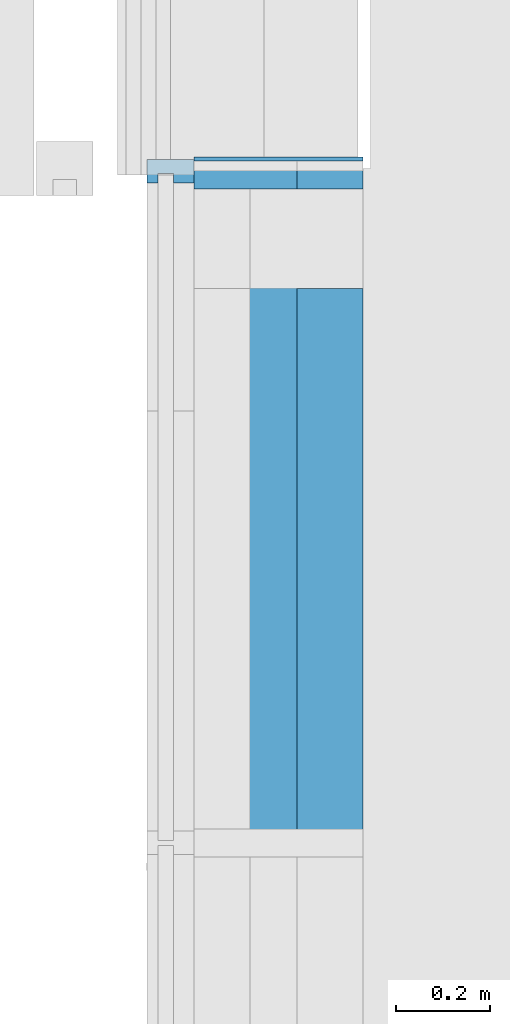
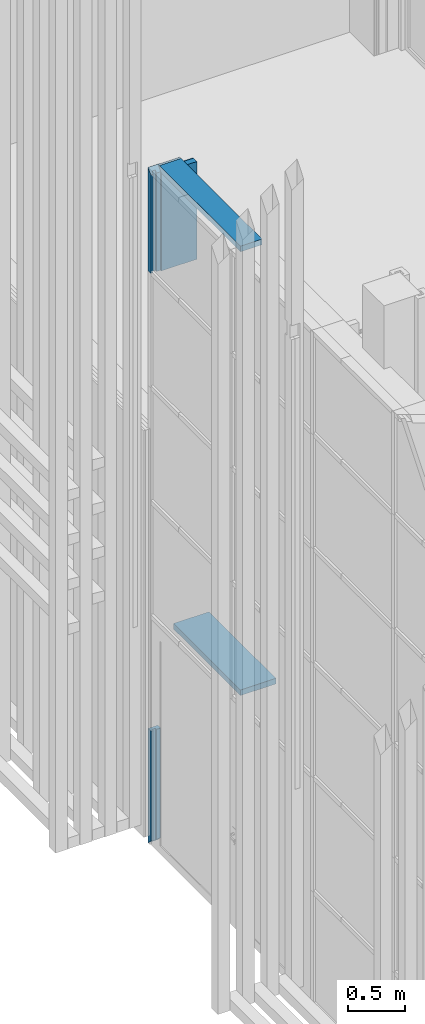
# One storey, part 75 of 260: 6 members, 2 elements without a shape of their own.
"""IFC2X3 building model written with IfcOpenShell, lengths in millimetres."""

from ifc_helpers import new_model, entity, si_unit, converted_unit, derived_unit, money_unit, direction, frame, origin_with_axes, place, context, subcontext, project, spatial, faceted_brep, material, type_object, element, aggregate, save


model = new_model("IFC2X3")

# Units and contexts
model_context = context("Model", 3, precision=0.01, world=origin_with_axes(), true_north=direction((0.0, 1.0)))
body_context = subcontext(model_context, "Body", "Model", "MODEL_VIEW")
ifc_project = project(units=[si_unit("LENGTHUNIT", "METRE", prefix="MILLI"), si_unit("AREAUNIT", "SQUARE_METRE"), si_unit("VOLUMEUNIT", "CUBIC_METRE"), converted_unit("PLANEANGLEUNIT", "DEGREE", entity("IfcPlaneAngleMeasure", 0.0174532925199), si_unit("PLANEANGLEUNIT", "RADIAN"), dimensions=[0, 0, 0, 0, 0, 0, 0]), money_unit("EUR"), converted_unit("TIMEUNIT", "Year", entity("IfcTimeMeasure", 31556926.0), si_unit("TIMEUNIT", "SECOND"), dimensions=[0, 0, 1, 0, 0, 0, 0]), si_unit("MASSUNIT", "GRAM", prefix="KILO"), si_unit("THERMODYNAMICTEMPERATUREUNIT", "DEGREE_CELSIUS"), si_unit("LUMINOUSINTENSITYUNIT", "LUMEN"), si_unit("ENERGYUNIT", "JOULE", prefix="MEGA"), derived_unit("THERMALCONDUCTANCEUNIT", [(si_unit("POWERUNIT", "WATT"), 1), (si_unit("LENGTHUNIT", "METRE"), -1), (si_unit("THERMODYNAMICTEMPERATUREUNIT", "KELVIN"), -1)]), derived_unit("SPECIFICHEATCAPACITYUNIT", [(si_unit("ENERGYUNIT", "JOULE"), 1), (si_unit("MASSUNIT", "GRAM", prefix="KILO"), -1), (si_unit("THERMODYNAMICTEMPERATUREUNIT", "KELVIN"), -1)]), derived_unit("MASSDENSITYUNIT", [(si_unit("MASSUNIT", "GRAM", prefix="KILO"), 1), (si_unit("VOLUMEUNIT", "CUBIC_METRE"), -1)])], contexts=[model_context])

# Site, building, storey
site_placement = place(None, origin_with_axes())
site = spatial("IfcSite", under=ifc_project, at=site_placement, Name="Kolde pst 67a", CompositionType="ELEMENT")
building_placement = place(site_placement, origin_with_axes())
building = spatial("IfcBuilding", under=site, at=building_placement, Name="Riigigümnaasium", CompositionType="ELEMENT")
storey_placement = place(building_placement, origin_with_axes())
storey = spatial("IfcBuildingStorey", under=building, at=storey_placement, Name="1. korrus", CompositionType="ELEMENT", Elevation=0.0)

# Curtain wall, members
curtain_wall_type = type_object("IfcCurtainWallType", Name="Curtain Wall Type", PredefinedType="NOTDEFINED")
curtain_wall_1_placement = place(storey_placement, frame((47829.9854655, 8727.77020058, -0.000749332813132), z_axis=(0.0, 0.0, 1.0), x_axis=(1.0, 0.0, 0.0)))
curtain_wall_1 = element("IfcCurtainWall", 1, at=curtain_wall_1_placement, inside=storey, type_object=curtain_wall_type, Name="KLAASFASSAAD")
ifc_material_1 = material(Name="_METALL - alumiinium")
member_type_1 = type_object("IfcMemberType", Name="Boundary Frame 50 x 100", PredefinedType="MEMBER")
member_1_placement = place(curtain_wall_1_placement, frame((-23999.8760143, 29242.7279165, 6150.00074933), z_axis=(0.0, 0.0, 1.0), x_axis=(-7.64768489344e-06, -0.999999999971, 0.0)))
member_1 = element("IfcMember", 2, at=member_1_placement, type_object=member_type_1, material=ifc_material_1, Name="RF RAAM SERV-651", ObjectType="MEMBER", context=body_context, shape_type="Brep", body=[
    faceted_brep([(30.0, 16.5, 1079.99892199), (50.0, 16.5, 1059.99892052), (50.0, 60.0, 1059.99892052), (0.0, 60.0, 1109.99892419), (0.0, -40.0, 1109.99892419), (50.0, -40.0, 1059.99892052), (50.0, -16.5, 1059.99892052), (30.0, -16.5, 1079.99892199), (30.0, 16.5, 0.0), (50.0, 16.5, 0.0), (50.0, 60.0, 0.0), (0.0, 60.0, 0.0), (0.0, -40.0, 0.0), (50.0, -40.0, 0.0), (50.0, -16.5, 0.0), (30.0, -16.5, 0.0)], [[[0, 1, 2, 3, 4, 5, 6, 7]], [[0, 8, 9, 1]], [[9, 10, 2, 1]], [[10, 11, 3, 2]], [[11, 12, 4, 3]], [[12, 13, 5, 4]], [[6, 5, 13, 14]], [[14, 15, 7, 6]], [[7, 15, 8, 0]], [[8, 15, 14, 13, 12, 11, 10, 9]]]),
])
member_2_placement = place(curtain_wall_1_placement, frame((-23999.8760143, 29242.7279165, 2.49889189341e-05), z_axis=(0.0, 0.0, 1.0), x_axis=(-7.64768489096e-06, -0.999999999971, 0.0)))
member_2 = element("IfcMember", 3, at=member_2_placement, type_object=member_type_1, material=ifc_material_1, Name="RF RAAM SERV-646", ObjectType="MEMBER", context=body_context, shape_type="Brep", body=[
    faceted_brep([(30.0, 16.5, 1230.00072434), (50.0, 16.5, 1230.00072434), (50.0, 60.0, 1230.00072434), (0.0, 60.0, 1230.00072434), (0.0, -40.0, 1230.00072434), (50.0, -40.0, 1230.00072434), (50.0, -16.5, 1230.00072434), (30.0, -16.5, 1230.00072434), (30.0, 16.5, 30.0), (50.0, 16.5, 50.0), (50.0, 60.0, 50.0), (0.0, 60.0, 0.0), (0.0, -40.0, 0.0), (50.0, -40.0, 50.0), (50.0, -16.5, 50.0), (30.0, -16.5, 30.0)], [[[0, 1, 2, 3, 4, 5, 6, 7]], [[0, 8, 9, 1]], [[9, 10, 2, 1]], [[2, 10, 11, 3]], [[3, 11, 12, 4]], [[4, 12, 13, 5]], [[6, 5, 13, 14]], [[14, 15, 7, 6]], [[7, 15, 8, 0]], [[8, 15, 14, 13, 12, 11, 10, 9]]]),
])
aggregate(curtain_wall_1, [member_1, member_2])

curtain_wall_2_placement = place(storey_placement, frame((23890.0026791, 27220.1832522, -0.000253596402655), z_axis=(0.0, 0.0, 1.0), x_axis=(1.0, 0.0, 0.0)))
curtain_wall_2 = element("IfcCurtainWall", 4, at=curtain_wall_2_placement, inside=storey, type_object=curtain_wall_type, Name="Klaasfassaadi puitkarkass")
ifc_material_2 = material(Name="_KANDETARIND - liimpuit vastavalt EK osale")
member_type_2 = type_object("IfcMemberType", Name="Boundary Frame 60 x 360", PredefinedType="MEMBER")
member_3_placement = place(curtain_wall_2_placement, frame((4.7645386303e-05, 9295.0, 2460.0002536), z_axis=(5.12591629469e-09, 1.0, 0.0), x_axis=(0.0, 0.0, 1.0)))
member_3 = element("IfcMember", 5, at=member_3_placement, type_object=member_type_2, material=ifc_material_2, Name="RF RAAM SERV-697", ObjectType="MEMBER", context=body_context, shape_type="Brep", body=[
    faceted_brep([(30.0, 360.0, 1.84532922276e-06), (30.0, 359.99999395, 1180.22646148), (30.0, -6.04974204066e-06, 1180.22645964), (30.0, 0.0, 0.0), (-30.0, 360.0, 1.84532922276e-06), (-30.0, 359.99999395, 1180.22646148), (-30.0, -6.04974204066e-06, 1180.22645964), (-30.0, 0.0, 0.0)], [[[0, 1, 2, 3]], [[4, 5, 1, 0]], [[1, 5, 6, 2]], [[3, 2, 6, 7]], [[0, 3, 7, 4]], [[7, 6, 5, 4]]]),
])
member_4_placement = place(curtain_wall_2_placement, frame((5.49754446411e-05, 10724.9999999, 7259.99984732), z_axis=(-5.12591492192e-09, -1.0, 1.07692566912e-07), x_axis=(0.0, -1.07692566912e-07, -1.0)))
member_4 = element("IfcMember", 6, at=member_4_placement, type_object=member_type_2, material=ifc_material_2, Name="RF RAAM SERV-727", ObjectType="MEMBER", context=body_context, shape_type="Brep", body=[
    faceted_brep([(0.000154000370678, 220.000009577, 1429.99999887), (0.0, 220.000003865, -1.12770237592e-06), (0.0, 0.0, 0.0), (0.000154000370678, 7.33005833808e-06, 1430.0), (59.9995937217, 220.000003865, -7.5892145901e-06), (59.9997477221, 220.000009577, 1429.99999241), (60.0, 0.0, -6.46155484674e-06), (60.0001540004, 7.33005833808e-06, 1429.99999354)], [[[0, 1, 2, 3]], [[4, 1, 0, 5]], [[1, 4, 6, 2]], [[2, 6, 7, 3]], [[5, 0, 3, 7]], [[4, 5, 7, 6]]]),
])
member_5_placement = place(curtain_wall_2_placement, frame((5.50898207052e-05, 10747.3132407, 6150.0002536), z_axis=(0.0, 0.0, 1.0), x_axis=(-5.12591492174e-09, -1.0, 0.0)))
member_5 = element("IfcMember", 7, at=member_5_placement, type_object=member_type_2, material=ifc_material_2, Name="RF RAAM SERV-725", ObjectType="MEMBER", context=body_context, shape_type="Brep", body=[
    faceted_brep([(0.0, 220.000003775, 1109.99955514), (0.0, 220.000003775, 1050.0), (0.0, 360.0, 1050.0), (0.0, 360.0, 0.0), (0.0, 0.0, 0.0), (0.0, 0.0, 1109.99955514), (60.0, 220.000004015, 1050.0), (60.0, 360.0, 1050.0), (60.0, 360.0, 0.0), (60.0, 0.0, 0.0), (60.0, 0.0, 1049.99965889)], [[[0, 1, 2, 3, 4, 5]], [[1, 0, 6]], [[7, 2, 1, 6]], [[2, 7, 8, 3]], [[3, 8, 9, 4]], [[4, 9, 10, 5]], [[6, 0, 5, 10]], [[7, 6, 10, 9, 8]]]),
])
member_type_3 = type_object("IfcMemberType", Name="Mullion Frame 60 x 360", PredefinedType="MEMBER")
member_6_placement = place(curtain_wall_2_placement, frame((5.49754446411e-05, 10724.9999999, 6150.0002536), z_axis=(0.0, 0.0, 1.0), x_axis=(-5.12591492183e-09, -1.0, 0.0)))
member_6 = element("IfcMember", 8, at=member_6_placement, type_object=member_type_3, material=ifc_material_2, Name="RF RAAM VERT-501", ObjectType="MEMBER", context=body_context, shape_type="Brep", body=[
    faceted_brep([(30.0, 0.0, 0.0), (30.0, 360.0, 0.0), (30.0, 360.0, 1049.99958427), (30.0, 0.0, 1049.99958755), (-30.0, 360.0, 0.0), (-30.0, 0.0, 0.0), (-30.0, 360.0, 1049.99958427), (-30.0, 0.0, 1049.99958755)], [[[0, 1, 2, 3]], [[4, 1, 0, 5]], [[1, 4, 6, 2]], [[3, 2, 6, 7]], [[5, 0, 3, 7]], [[4, 5, 7, 6]]]),
])
aggregate(curtain_wall_2, [member_3, member_4, member_6, member_5])

save(model, "model.ifc")
